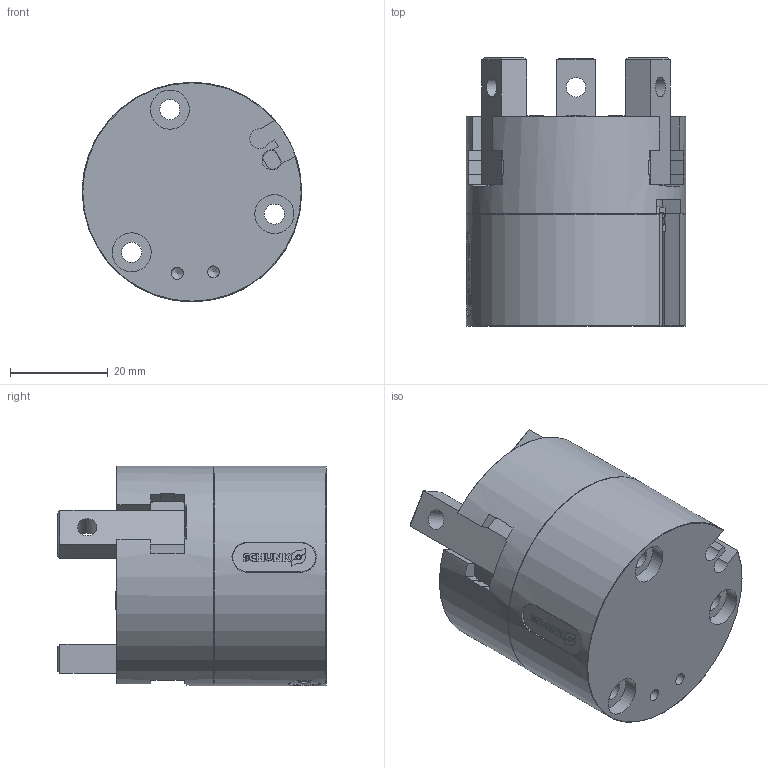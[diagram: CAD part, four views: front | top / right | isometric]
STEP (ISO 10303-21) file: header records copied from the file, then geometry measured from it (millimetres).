
FILE_DESCRIPTION(/* description */ ('STEP AP214'),/* implementation_level */ '2;1');
FILE_NAME(/* name */ 'SCHUNK-0340530 MPZ 45_ 00',/* time_stamp */ '2026-03-24T20:28:54+01:00',/* author */ ('License CC BY-ND 4.0'),/* organization */ ('CADENAS'),/* preprocessor_version */ 'ST-DEVELOPER v20',/* originating_system */ 'PARTsolutions',/* authorisation */ ' ');
FILE_SCHEMA (('AUTOMOTIVE_DESIGN {1 0 10303 214 3 1 1}'));
Length unit declared in the file: millimetre
Products named in the file (8): SCHUNK-0340530 MPZ 45, 00; SCHUNK-5512095 Gehaeuse MPZ 45; SCHUNK-9954530 Typenschild 6x17x0.3; SCHUNK-5512094 Abdeckgehaeuse MPZ 45; SCHUNK-5512099 Abdeckblech  MPZ 45; Hexagon socket countersunk head screws DIN 7991 - M2x5; SCHUNK-5512096 Grundbacke MPZ 45; SCHUNK-9949504 limit stop for MMS-P
Assembly tree (11 placements, depth 2):
  SCHUNK-0340530 MPZ 45, 00
    SCHUNK-5512095 Gehaeuse MPZ 45
    SCHUNK-9954530 Typenschild 6x17x0.3
    SCHUNK-5512094 Abdeckgehaeuse MPZ 45
    SCHUNK-5512099 Abdeckblech  MPZ 45
    Hexagon socket countersunk head screws DIN 7991 - M2x5  x3
    SCHUNK-5512096 Grundbacke MPZ 45  x3
    SCHUNK-9949504 limit stop for MMS-P
Bounding box: 45 x 55 x 45 mm (x, y, z)
Volume: 62688.8 mm3; surface area: 23306.7 mm2
Topology: 11 solids, 11 shells, 380 faces, 970 edges, 635 vertices
Faces by surface type: plane 268, cylinder 77, cone 32, torus 3
Full cylindrical faces by diameter (mm): 0.792 x1, 1.567 x3, 2 x3, 2.2 x3, 2.459 x4, 2.5 x4, 3.8 x3, 4 x3, 4.134 x3, 4.2 x3, 6.6 x2, 7.2 x3, 7.4 x3, 8 x3, 45 x1
Entity records: 9677 total; most frequent: CARTESIAN_POINT 1640, DIRECTION 1448, ORIENTED_EDGE 1370, EDGE_CURVE 685, VERTEX_POINT 488, AXIS2_PLACEMENT_3D 483, LINE 482, VECTOR 482
